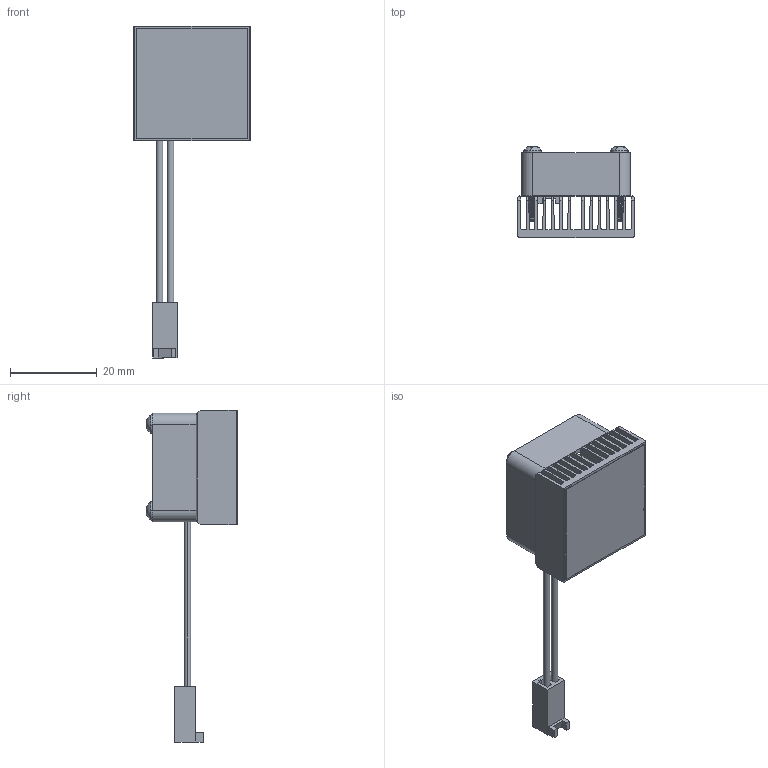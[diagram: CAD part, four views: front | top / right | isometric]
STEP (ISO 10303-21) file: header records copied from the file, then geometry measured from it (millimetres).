
FILE_DESCRIPTION (( 'STEP AP214' ), '1' );
FILE_NAME ('FJ27-1.7.STEP', '2023-03-21T23:44:43', ( '' ), ( '' ), 'SwSTEP 2.0', 'SolidWorks 2020', '' );
FILE_SCHEMA (( 'AUTOMOTIVE_DESIGN' ));
Length unit declared in the file: millimetre
Products named in the file (1): FJ27-1.7
Bounding box: 26.8 x 21.12 x 76.55 mm (x, y, z)
Volume: 6797.5 mm3; surface area: 13850.3 mm2
Topology: 7 solids, 7 shells, 807 faces, 2350 edges, 1564 vertices
Faces by surface type: cylinder 370, plane 259, bspline 122, cone 40, sphere 8, torus 8
Entity records: 61246 total; most frequent: CARTESIAN_POINT 33812, ORIENTED_EDGE 4700, DIRECTION 3061, EDGE_CURVE 2350, VERTEX_POINT 1564, LINE 1069, VECTOR 1069, AXIS2_PLACEMENT_3D 996
